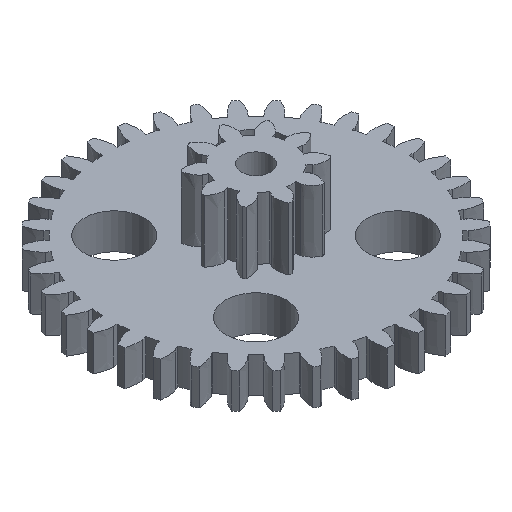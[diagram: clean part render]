
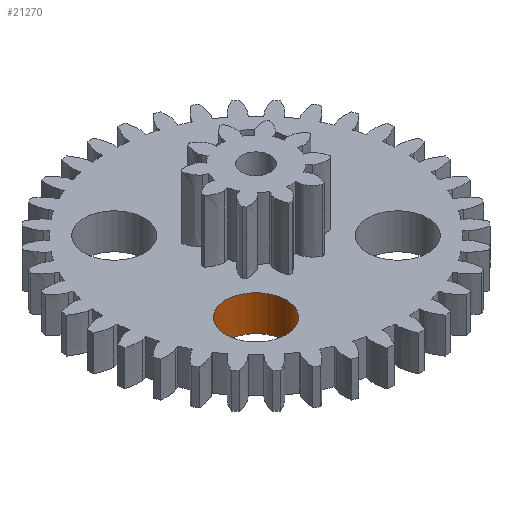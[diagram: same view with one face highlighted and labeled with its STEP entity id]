
A CAD part, isometric view. The second image highlights one B-rep face of the part: STEP entity #21270.
In plain terms, the highlighted cylindrical face has radius 3.4 mm (diameter 6.8 mm), a full revolution.
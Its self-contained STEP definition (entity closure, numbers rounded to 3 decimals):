
#72 = PLANE('',#73);
#73 = AXIS2_PLACEMENT_3D('',#74,#75,#76);
#74 = CARTESIAN_POINT('',(0.,0.,
    4.));
#75 = DIRECTION('',(0.,0.,1.));
#76 = DIRECTION('',(1.,0.,-0.));
#133 = PLANE('',#134);
#134 = AXIS2_PLACEMENT_3D('',#135,#136,#137);
#135 = CARTESIAN_POINT('',(0.,0.,
    0.));
#136 = DIRECTION('',(0.,0.,1.));
#137 = DIRECTION('',(1.,0.,-0.));
#7557 = EDGE_CURVE('',#7558,#7558,#7560,.T.);
#7558 = VERTEX_POINT('',#7559);
#7559 = CARTESIAN_POINT('',(-4.59,-7.99,
    0.));
#7560 = SURFACE_CURVE('',#7561,(#7566,#7573),.PCURVE_S1.);
#7561 = CIRCLE('',#7562,3.4);
#7562 = AXIS2_PLACEMENT_3D('',#7563,#7564,#7565);
#7563 = CARTESIAN_POINT('',(-7.99,-7.99,
    0.));
#7564 = DIRECTION('',(0.,0.,1.));
#7565 = DIRECTION('',(1.,0.,-0.));
#7566 = PCURVE('',#133,#7567);
#7567 = DEFINITIONAL_REPRESENTATION('',(#7568),#7572);
#7568 = CIRCLE('',#7569,3.4);
#7569 = AXIS2_PLACEMENT_2D('',#7570,#7571);
#7570 = CARTESIAN_POINT('',(-7.99,-7.99));
#7571 = DIRECTION('',(1.,0.));
#7572 = ( GEOMETRIC_REPRESENTATION_CONTEXT(2) 
PARAMETRIC_REPRESENTATION_CONTEXT() REPRESENTATION_CONTEXT('2D SPACE',''
  ) );
#7573 = PCURVE('',#7574,#7579);
#7574 = CYLINDRICAL_SURFACE('',#7575,3.4);
#7575 = AXIS2_PLACEMENT_3D('',#7576,#7577,#7578);
#7576 = CARTESIAN_POINT('',(-7.99,-7.99,-1.)
  );
#7577 = DIRECTION('',(0.,0.,1.));
#7578 = DIRECTION('',(1.,0.,-0.));
#7579 = DEFINITIONAL_REPRESENTATION('',(#7580),#7584);
#7580 = LINE('',#7581,#7582);
#7581 = CARTESIAN_POINT('',(0.,1.));
#7582 = VECTOR('',#7583,1.);
#7583 = DIRECTION('',(1.,0.));
#7584 = ( GEOMETRIC_REPRESENTATION_CONTEXT(2) 
PARAMETRIC_REPRESENTATION_CONTEXT() REPRESENTATION_CONTEXT('2D SPACE',''
  ) );
#13396 = EDGE_CURVE('',#13397,#13397,#13399,.T.);
#13397 = VERTEX_POINT('',#13398);
#13398 = CARTESIAN_POINT('',(-4.59,-7.99,
    4.));
#13399 = SURFACE_CURVE('',#13400,(#13405,#13412),.PCURVE_S1.);
#13400 = CIRCLE('',#13401,3.4);
#13401 = AXIS2_PLACEMENT_3D('',#13402,#13403,#13404);
#13402 = CARTESIAN_POINT('',(-7.99,-7.99,
    4.));
#13403 = DIRECTION('',(0.,0.,1.));
#13404 = DIRECTION('',(1.,0.,-0.));
#13405 = PCURVE('',#72,#13406);
#13406 = DEFINITIONAL_REPRESENTATION('',(#13407),#13411);
#13407 = CIRCLE('',#13408,3.4);
#13408 = AXIS2_PLACEMENT_2D('',#13409,#13410);
#13409 = CARTESIAN_POINT('',(-7.99,-7.99));
#13410 = DIRECTION('',(1.,0.));
#13411 = ( GEOMETRIC_REPRESENTATION_CONTEXT(2) 
PARAMETRIC_REPRESENTATION_CONTEXT() REPRESENTATION_CONTEXT('2D SPACE',''
  ) );
#13412 = PCURVE('',#7574,#13413);
#13413 = DEFINITIONAL_REPRESENTATION('',(#13414),#13418);
#13414 = LINE('',#13415,#13416);
#13415 = CARTESIAN_POINT('',(0.,5.));
#13416 = VECTOR('',#13417,1.);
#13417 = DIRECTION('',(1.,0.));
#13418 = ( GEOMETRIC_REPRESENTATION_CONTEXT(2) 
PARAMETRIC_REPRESENTATION_CONTEXT() REPRESENTATION_CONTEXT('2D SPACE',''
  ) );
#21270 = ADVANCED_FACE('',(#21271),#7574,.F.);
#21271 = FACE_BOUND('',#21272,.F.);
#21272 = EDGE_LOOP('',(#21273,#21274,#21295,#21296));
#21273 = ORIENTED_EDGE('',*,*,#13396,.F.);
#21274 = ORIENTED_EDGE('',*,*,#21275,.F.);
#21275 = EDGE_CURVE('',#7558,#13397,#21276,.T.);
#21276 = SEAM_CURVE('',#21277,(#21281,#21288),.PCURVE_S1.);
#21277 = LINE('',#21278,#21279);
#21278 = CARTESIAN_POINT('',(-4.59,-7.99,-1.)
  );
#21279 = VECTOR('',#21280,1.);
#21280 = DIRECTION('',(0.,0.,1.));
#21281 = PCURVE('',#7574,#21282);
#21282 = DEFINITIONAL_REPRESENTATION('',(#21283),#21287);
#21283 = LINE('',#21284,#21285);
#21284 = CARTESIAN_POINT('',(6.283,-0.));
#21285 = VECTOR('',#21286,1.);
#21286 = DIRECTION('',(0.,1.));
#21287 = ( GEOMETRIC_REPRESENTATION_CONTEXT(2) 
PARAMETRIC_REPRESENTATION_CONTEXT() REPRESENTATION_CONTEXT('2D SPACE',''
  ) );
#21288 = PCURVE('',#7574,#21289);
#21289 = DEFINITIONAL_REPRESENTATION('',(#21290),#21294);
#21290 = LINE('',#21291,#21292);
#21291 = CARTESIAN_POINT('',(0.,-0.));
#21292 = VECTOR('',#21293,1.);
#21293 = DIRECTION('',(0.,1.));
#21294 = ( GEOMETRIC_REPRESENTATION_CONTEXT(2) 
PARAMETRIC_REPRESENTATION_CONTEXT() REPRESENTATION_CONTEXT('2D SPACE',''
  ) );
#21295 = ORIENTED_EDGE('',*,*,#7557,.T.);
#21296 = ORIENTED_EDGE('',*,*,#21275,.T.);
